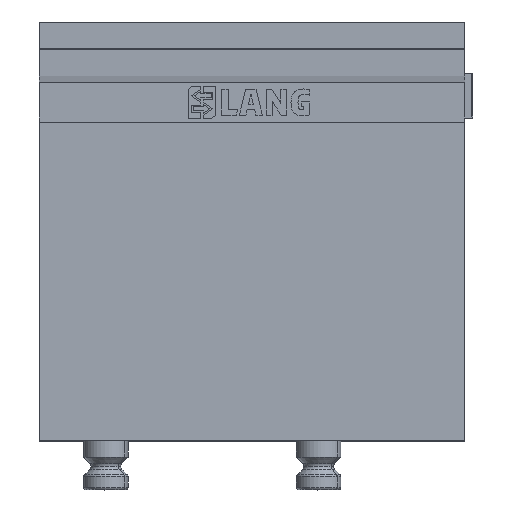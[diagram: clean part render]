
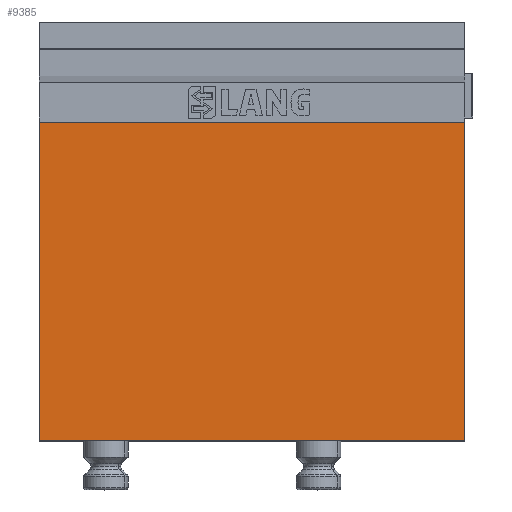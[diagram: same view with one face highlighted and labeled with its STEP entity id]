
A CAD part, top view. The second image highlights one B-rep face of the part: STEP entity #9385.
In plain terms, the highlighted planar face has unit normal (0, 0, 1).
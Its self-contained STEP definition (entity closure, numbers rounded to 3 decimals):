
#604 = CARTESIAN_POINT ( 'NONE',  ( 19.99, 0., 62.8 ) ) ;
#1045 = ORIENTED_EDGE ( 'NONE', *, *, #9667, .F. ) ;
#2229 = VERTEX_POINT ( 'NONE', #10164 ) ;
#3819 = AXIS2_PLACEMENT_3D ( 'NONE', #16898, #10091, #8511 ) ;
#3880 = DIRECTION ( 'NONE',  ( 0., -1., 0. ) ) ;
#5690 = CARTESIAN_POINT ( 'NONE',  ( 19.99, 143.799, 62.8 ) ) ;
#6203 = VECTOR ( 'NONE', #10292, 1000. ) ;
#6946 = EDGE_LOOP ( 'NONE', ( #1045, #15769, #17710, #8376 ) ) ;
#6972 = CARTESIAN_POINT ( 'NONE',  ( 211.99, 0., 62.8 ) ) ;
#8376 = ORIENTED_EDGE ( 'NONE', *, *, #16158, .F. ) ;
#8511 = DIRECTION ( 'NONE',  ( -1., 0., 0. ) ) ;
#8658 = PLANE ( 'NONE',  #3819 ) ;
#8783 = FACE_OUTER_BOUND ( 'NONE', #6946, .T. ) ;
#8979 = LINE ( 'NONE', #12889, #14807 ) ;
#9385 = ADVANCED_FACE ( 'NONE', ( #8783 ), #8658, .F. ) ;
#9667 = EDGE_CURVE ( 'NONE', #15365, #18292, #14033, .T. ) ;
#9977 = CARTESIAN_POINT ( 'NONE',  ( 211.99, 143.799, 62.8 ) ) ;
#10091 = DIRECTION ( 'NONE',  ( 0., 0., -1. ) ) ;
#10164 = CARTESIAN_POINT ( 'NONE',  ( 19.99, 143.799, 62.8 ) ) ;
#10175 = CARTESIAN_POINT ( 'NONE',  ( 19.99, 189., 62.8 ) ) ;
#10292 = DIRECTION ( 'NONE',  ( 0., -1., 0. ) ) ;
#11223 = DIRECTION ( 'NONE',  ( -1., 0., 0. ) ) ;
#12229 = EDGE_CURVE ( 'NONE', #2229, #12571, #20275, .T. ) ;
#12536 = DIRECTION ( 'NONE',  ( 1., 0., 0. ) ) ;
#12571 = VERTEX_POINT ( 'NONE', #604 ) ;
#12643 = LINE ( 'NONE', #5690, #20017 ) ;
#12740 = VECTOR ( 'NONE', #3880, 1000. ) ;
#12889 = CARTESIAN_POINT ( 'NONE',  ( 212.2, 0., 62.8 ) ) ;
#14033 = LINE ( 'NONE', #21121, #12740 ) ;
#14807 = VECTOR ( 'NONE', #11223, 1000. ) ;
#15365 = VERTEX_POINT ( 'NONE', #9977 ) ;
#15769 = ORIENTED_EDGE ( 'NONE', *, *, #18740, .F. ) ;
#16158 = EDGE_CURVE ( 'NONE', #18292, #12571, #8979, .T. ) ;
#16898 = CARTESIAN_POINT ( 'NONE',  ( 212.2, -0.2, 62.8 ) ) ;
#17710 = ORIENTED_EDGE ( 'NONE', *, *, #12229, .T. ) ;
#18292 = VERTEX_POINT ( 'NONE', #6972 ) ;
#18740 = EDGE_CURVE ( 'NONE', #2229, #15365, #12643, .T. ) ;
#20017 = VECTOR ( 'NONE', #12536, 1000. ) ;
#20275 = LINE ( 'NONE', #10175, #6203 ) ;
#21121 = CARTESIAN_POINT ( 'NONE',  ( 211.99, 189., 62.8 ) ) ;
